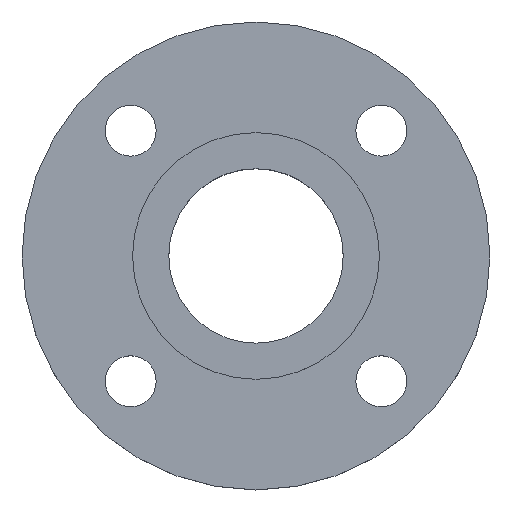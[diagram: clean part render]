
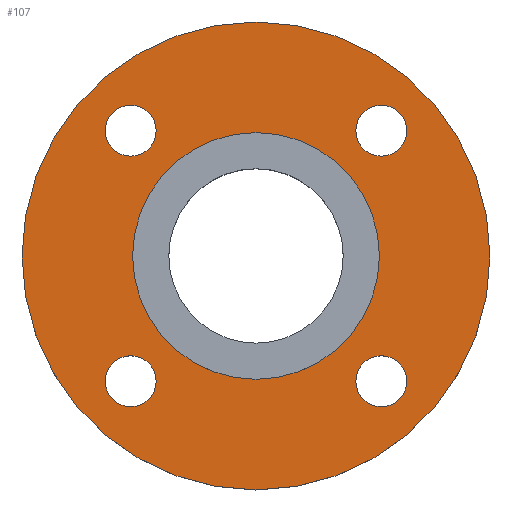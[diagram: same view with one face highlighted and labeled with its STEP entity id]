
A CAD part, top view. The second image highlights one B-rep face of the part: STEP entity #107.
In plain terms, the highlighted planar face has unit normal (0, 0, 1).
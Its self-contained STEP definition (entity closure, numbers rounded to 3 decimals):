
#5 = EDGE_CURVE ( 'NONE', #424, #557, #498, .T. ) ;
#11 = DIRECTION ( 'NONE',  ( -1., 0., 0. ) ) ;
#12 = DIRECTION ( 'NONE',  ( 0., 0., -1. ) ) ;
#14 = CARTESIAN_POINT ( 'NONE',  ( 0., 0., -4.5 ) ) ;
#15 = DIRECTION ( 'NONE',  ( 1., 0., 0. ) ) ;
#16 = DIRECTION ( 'NONE',  ( 0., 0., -1. ) ) ;
#18 = CARTESIAN_POINT ( 'NONE',  ( 44.194, -44.194, -4.5 ) ) ;
#42 = CIRCLE ( 'NONE', #156, 9. ) ;
#62 = EDGE_CURVE ( 'NONE', #557, #424, #267, .T. ) ;
#66 = CARTESIAN_POINT ( 'NONE',  ( -43.5, 0., -4.5 ) ) ;
#67 = CARTESIAN_POINT ( 'NONE',  ( -35.194, 44.194, -4.5 ) ) ;
#72 = CIRCLE ( 'NONE', #331, 82.5 ) ;
#81 = EDGE_CURVE ( 'NONE', #356, #485, #42, .T. ) ;
#84 = EDGE_CURVE ( 'NONE', #426, #349, #143, .T. ) ;
#88 = CARTESIAN_POINT ( 'NONE',  ( 53.194, -44.194, -4.5 ) ) ;
#92 = CARTESIAN_POINT ( 'NONE',  ( 53.194, 44.194, -4.5 ) ) ;
#96 = CIRCLE ( 'NONE', #147, 9. ) ;
#99 = AXIS2_PLACEMENT_3D ( 'NONE', #620, #621, #622 ) ;
#107 = ADVANCED_FACE ( 'NONE', ( #630, #632, #633, #634, #635, #636 ), #637, .T. ) ;
#109 = AXIS2_PLACEMENT_3D ( 'NONE', #638, #639, #640 ) ;
#116 = EDGE_CURVE ( 'NONE', #531, #554, #261, .T. ) ;
#122 = CARTESIAN_POINT ( 'NONE',  ( 82.5, 0., -4.5 ) ) ;
#126 = CARTESIAN_POINT ( 'NONE',  ( 35.194, -44.194, -4.5 ) ) ;
#135 = CIRCLE ( 'NONE', #165, 9. ) ;
#141 = CARTESIAN_POINT ( 'NONE',  ( -35.194, -44.194, -4.5 ) ) ;
#143 = CIRCLE ( 'NONE', #99, 82.5 ) ;
#147 = AXIS2_PLACEMENT_3D ( 'NONE', #237, #238, #239 ) ;
#150 = EDGE_CURVE ( 'NONE', #485, #356, #135, .T. ) ;
#156 = AXIS2_PLACEMENT_3D ( 'NONE', #616, #618, #619 ) ;
#165 = AXIS2_PLACEMENT_3D ( 'NONE', #664, #665, #666 ) ;
#184 = AXIS2_PLACEMENT_3D ( 'NONE', #193, #195, #198 ) ;
#193 = CARTESIAN_POINT ( 'NONE',  ( 44.194, 44.194, -4.5 ) ) ;
#194 = EDGE_CURVE ( 'NONE', #343, #407, #246, .T. ) ;
#195 = DIRECTION ( 'NONE',  ( 0., 0., -1. ) ) ;
#198 = DIRECTION ( 'NONE',  ( 1., 0., 0. ) ) ;
#210 = CARTESIAN_POINT ( 'NONE',  ( 44.194, -44.194, -4.5 ) ) ;
#211 = DIRECTION ( 'NONE',  ( 0., 0., -1. ) ) ;
#212 = DIRECTION ( 'NONE',  ( 1., 0., 0. ) ) ;
#237 = CARTESIAN_POINT ( 'NONE',  ( -44.194, -44.194, -4.5 ) ) ;
#238 = DIRECTION ( 'NONE',  ( 0., 0., -1. ) ) ;
#239 = DIRECTION ( 'NONE',  ( 1., 0., 0. ) ) ;
#246 = CIRCLE ( 'NONE', #260, 9. ) ;
#260 = AXIS2_PLACEMENT_3D ( 'NONE', #694, #695, #696 ) ;
#261 = CIRCLE ( 'NONE', #427, 9. ) ;
#267 = CIRCLE ( 'NONE', #576, 43.5 ) ;
#282 = CARTESIAN_POINT ( 'NONE',  ( 35.194, 44.194, -4.5 ) ) ;
#285 = CARTESIAN_POINT ( 'NONE',  ( 43.5, 0., -4.5 ) ) ;
#294 = CARTESIAN_POINT ( 'NONE',  ( -53.194, 44.194, -4.5 ) ) ;
#296 = CARTESIAN_POINT ( 'NONE',  ( -82.5, 0., -4.5 ) ) ;
#305 = EDGE_CURVE ( 'NONE', #407, #343, #355, .T. ) ;
#310 = EDGE_CURVE ( 'NONE', #402, #405, #354, .T. ) ;
#316 = CIRCLE ( 'NONE', #371, 9. ) ;
#327 = EDGE_CURVE ( 'NONE', #554, #531, #96, .T. ) ;
#331 = AXIS2_PLACEMENT_3D ( 'NONE', #14, #12, #11 ) ;
#343 = VERTEX_POINT ( 'NONE', #282 ) ;
#348 = AXIS2_PLACEMENT_3D ( 'NONE', #210, #211, #212 ) ;
#349 = VERTEX_POINT ( 'NONE', #296 ) ;
#354 = CIRCLE ( 'NONE', #348, 9. ) ;
#355 = CIRCLE ( 'NONE', #184, 9. ) ;
#356 = VERTEX_POINT ( 'NONE', #294 ) ;
#371 = AXIS2_PLACEMENT_3D ( 'NONE', #18, #16, #15 ) ;
#375 = CARTESIAN_POINT ( 'NONE',  ( -53.194, -44.194, -4.5 ) ) ;
#402 = VERTEX_POINT ( 'NONE', #88 ) ;
#405 = VERTEX_POINT ( 'NONE', #126 ) ;
#407 = VERTEX_POINT ( 'NONE', #92 ) ;
#424 = VERTEX_POINT ( 'NONE', #66 ) ;
#426 = VERTEX_POINT ( 'NONE', #122 ) ;
#427 = AXIS2_PLACEMENT_3D ( 'NONE', #651, #652, #653 ) ;
#451 = ORIENTED_EDGE ( 'NONE', *, *, #310, .T. ) ;
#452 = ORIENTED_EDGE ( 'NONE', *, *, #697, .T. ) ;
#453 = ORIENTED_EDGE ( 'NONE', *, *, #327, .T. ) ;
#454 = ORIENTED_EDGE ( 'NONE', *, *, #116, .T. ) ;
#455 = ORIENTED_EDGE ( 'NONE', *, *, #150, .T. ) ;
#458 = ORIENTED_EDGE ( 'NONE', *, *, #81, .T. ) ;
#459 = ORIENTED_EDGE ( 'NONE', *, *, #305, .T. ) ;
#460 = ORIENTED_EDGE ( 'NONE', *, *, #194, .T. ) ;
#461 = ORIENTED_EDGE ( 'NONE', *, *, #5, .T. ) ;
#462 = ORIENTED_EDGE ( 'NONE', *, *, #62, .T. ) ;
#463 = ORIENTED_EDGE ( 'NONE', *, *, #84, .F. ) ;
#464 = ORIENTED_EDGE ( 'NONE', *, *, #712, .F. ) ;
#485 = VERTEX_POINT ( 'NONE', #67 ) ;
#494 = AXIS2_PLACEMENT_3D ( 'NONE', #581, #582, #583 ) ;
#498 = CIRCLE ( 'NONE', #494, 43.5 ) ;
#531 = VERTEX_POINT ( 'NONE', #375 ) ;
#542 = EDGE_LOOP ( 'NONE', ( #463, #464 ) ) ;
#546 = EDGE_LOOP ( 'NONE', ( #461, #462 ) ) ;
#549 = EDGE_LOOP ( 'NONE', ( #459, #460 ) ) ;
#551 = EDGE_LOOP ( 'NONE', ( #455, #458 ) ) ;
#552 = EDGE_LOOP ( 'NONE', ( #453, #454 ) ) ;
#554 = VERTEX_POINT ( 'NONE', #141 ) ;
#557 = VERTEX_POINT ( 'NONE', #285 ) ;
#568 = EDGE_LOOP ( 'NONE', ( #451, #452 ) ) ;
#576 = AXIS2_PLACEMENT_3D ( 'NONE', #613, #614, #615 ) ;
#581 = CARTESIAN_POINT ( 'NONE',  ( 0., 0., -4.5 ) ) ;
#582 = DIRECTION ( 'NONE',  ( 0., 0., -1. ) ) ;
#583 = DIRECTION ( 'NONE',  ( -1., 0., 0. ) ) ;
#613 = CARTESIAN_POINT ( 'NONE',  ( 0., 0., -4.5 ) ) ;
#614 = DIRECTION ( 'NONE',  ( 0., 0., -1. ) ) ;
#615 = DIRECTION ( 'NONE',  ( -1., 0., 0. ) ) ;
#616 = CARTESIAN_POINT ( 'NONE',  ( -44.194, 44.194, -4.5 ) ) ;
#618 = DIRECTION ( 'NONE',  ( 0., 0., -1. ) ) ;
#619 = DIRECTION ( 'NONE',  ( 1., 0., 0. ) ) ;
#620 = CARTESIAN_POINT ( 'NONE',  ( 0., 0., -4.5 ) ) ;
#621 = DIRECTION ( 'NONE',  ( 0., 0., -1. ) ) ;
#622 = DIRECTION ( 'NONE',  ( -1., 0., 0. ) ) ;
#630 = FACE_BOUND ( 'NONE', #568, .T. ) ;
#632 = FACE_BOUND ( 'NONE', #552, .T. ) ;
#633 = FACE_BOUND ( 'NONE', #551, .T. ) ;
#634 = FACE_BOUND ( 'NONE', #549, .T. ) ;
#635 = FACE_BOUND ( 'NONE', #546, .T. ) ;
#636 = FACE_OUTER_BOUND ( 'NONE', #542, .T. ) ;
#637 = PLANE ( 'NONE',  #109 ) ;
#638 = CARTESIAN_POINT ( 'NONE',  ( 43.5, 0., -4.5 ) ) ;
#639 = DIRECTION ( 'NONE',  ( 0., 0., 1. ) ) ;
#640 = DIRECTION ( 'NONE',  ( 1., 0., 0. ) ) ;
#651 = CARTESIAN_POINT ( 'NONE',  ( -44.194, -44.194, -4.5 ) ) ;
#652 = DIRECTION ( 'NONE',  ( 0., 0., -1. ) ) ;
#653 = DIRECTION ( 'NONE',  ( 1., 0., 0. ) ) ;
#664 = CARTESIAN_POINT ( 'NONE',  ( -44.194, 44.194, -4.5 ) ) ;
#665 = DIRECTION ( 'NONE',  ( 0., 0., -1. ) ) ;
#666 = DIRECTION ( 'NONE',  ( 1., 0., 0. ) ) ;
#694 = CARTESIAN_POINT ( 'NONE',  ( 44.194, 44.194, -4.5 ) ) ;
#695 = DIRECTION ( 'NONE',  ( 0., 0., -1. ) ) ;
#696 = DIRECTION ( 'NONE',  ( 1., 0., 0. ) ) ;
#697 = EDGE_CURVE ( 'NONE', #405, #402, #316, .T. ) ;
#712 = EDGE_CURVE ( 'NONE', #349, #426, #72, .T. ) ;
